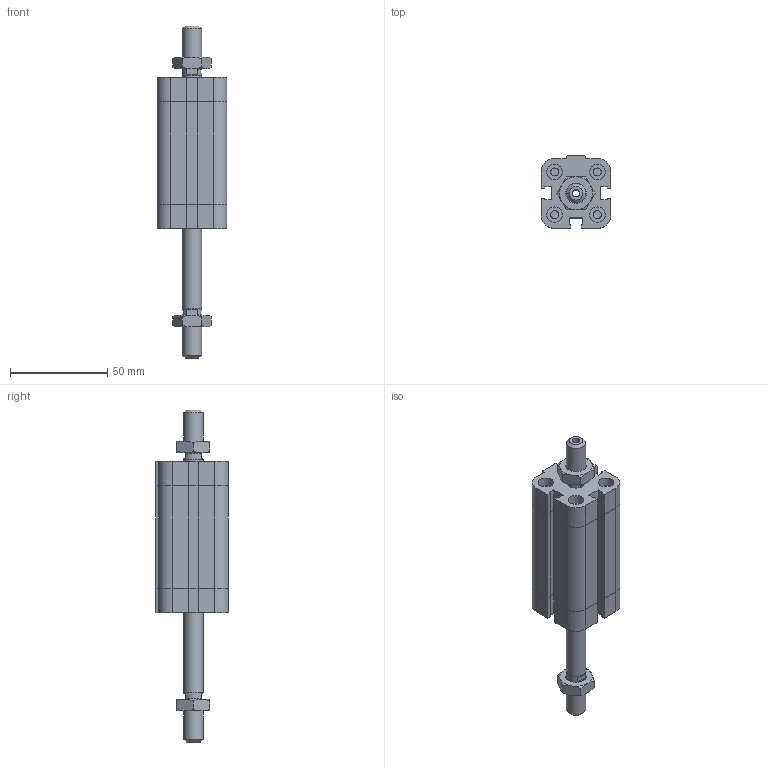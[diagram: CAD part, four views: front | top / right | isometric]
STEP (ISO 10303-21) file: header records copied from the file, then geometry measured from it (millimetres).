
FILE_DESCRIPTION((''),'2;1');
FILE_NAME('I:\Area Tecnica\Disegni\VARIE-3D\Componenti\EUROPE\15##_###_####_05_#\1581_20_0040_05_1.iam.stp','2009-04-20T14:59:58',(''),(''),'Autodesk Inventor 2009','Autodesk Inventor 2009','');
FILE_SCHEMA(('AUTOMOTIVE_DESIGN { 1 0 10303 214 1 1 1 1 }'));
Length unit declared in the file: millimetre
Products named in the file (4): 1581_20_0040_05_1; 1581_20_0040_03_1_C; 1561_20_0040_05_1_S; DBFM10
Assembly tree (4 placements, depth 2):
  1581_20_0040_05_1
    1581_20_0040_03_1_C
    1561_20_0040_05_1_S
    DBFM10  x2
Bounding box: 36 x 37.5 x 171 mm (x, y, z)
Volume: 94870.6 mm3; surface area: 30250.8 mm2
Topology: 4 solids, 4 shells, 223 faces, 486 edges, 291 vertices
Faces by surface type: plane 129, cone 35, bspline 34, cylinder 25
Full cylindrical faces by diameter (mm): 4.134 x4, 7.9 x1, 8 x4, 9.8 x2, 10 x2
Entity records: 5497 total; most frequent: CARTESIAN_POINT 1244, DIRECTION 806, ORIENTED_EDGE 776, EDGE_CURVE 388, AXIS2_PLACEMENT_3D 274, EDGE_LOOP 262, VECTOR 258, LINE 258
